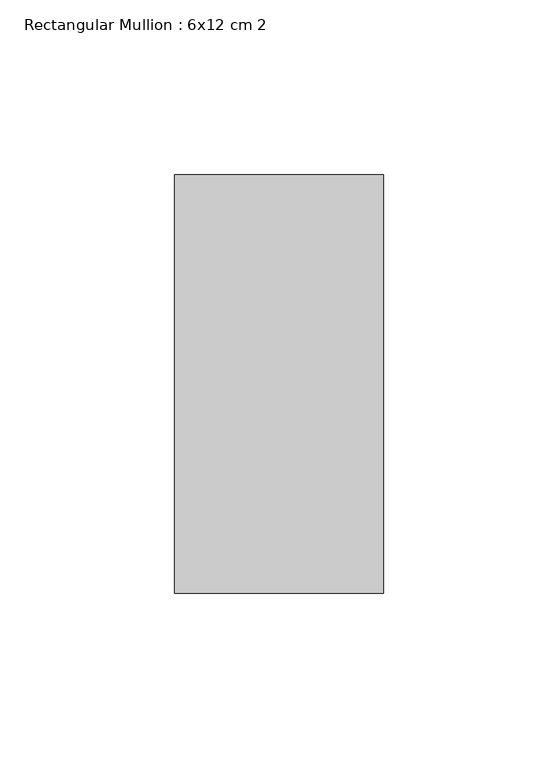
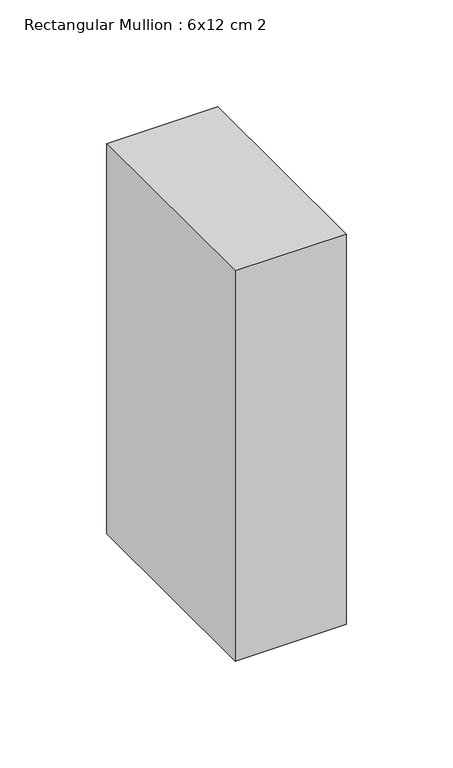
"""IFC4 building model written with IfcOpenShell, lengths in millimetres: member geometry, Rectangular Mullion : 6x12 cm 2."""

from ifc_helpers import new_model, si_unit, frame, origin, place, context, project, spatial, polyline, outline, extrude, source, transform, mapped, element, save


def rectangular_mullion_6x12_cm_2_546c9819(model_context):
    return source(origin(), model_context, "Body", "SweptSolid", [
        extrude(outline(polyline([(0.0, 205.0), (0.0, 85.0), (-60.0, 85.0), (-60.0, 205.0), (0.0, 205.0)])), frame((0.0, 0.0, -222.9034959), z_axis=(0.0, 0.0, 1.0), x_axis=(1.0, 0.0, 0.0)), (0.0, 0.0, 1.0), 222.9034959),
    ])


if __name__ == "__main__":
    model = new_model("IFC4")
    model_context = context("Model", 3, world=origin())
    ifc_project = project(units=[si_unit("LENGTHUNIT", "METRE", prefix="MILLI")], contexts=[model_context])
    site = spatial("IfcSite", under=ifc_project)
    building = spatial("IfcBuilding", under=site)
    placement = place(None, origin())
    rectangular_mullion_6x12_cm_2_shape = rectangular_mullion_6x12_cm_2_546c9819(model_context)
    element("IfcMember", 1, ObjectType="Rectangular Mullion : 6x12 cm 2", at=placement, inside=building, context=model_context, shape_type="MappedRepresentation", body=[
        mapped(rectangular_mullion_6x12_cm_2_shape, transform((0.0, 0.0, 0.0), x_axis=(1.0, 0.0, 0.0), y_axis=(0.0, 1.0, 0.0), z_axis=(0.0, 0.0, 1.0))),
    ])
    save(model, "model.ifc")
